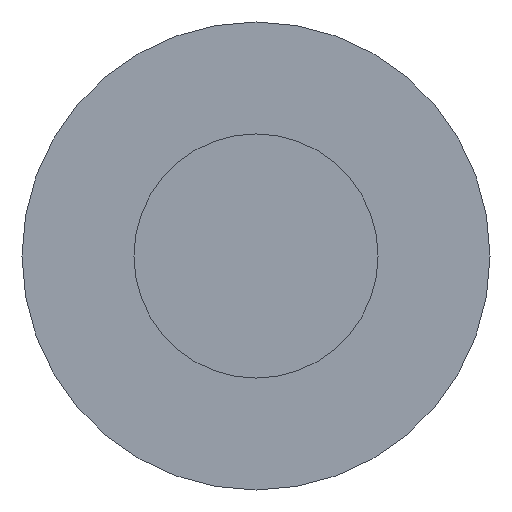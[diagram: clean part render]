
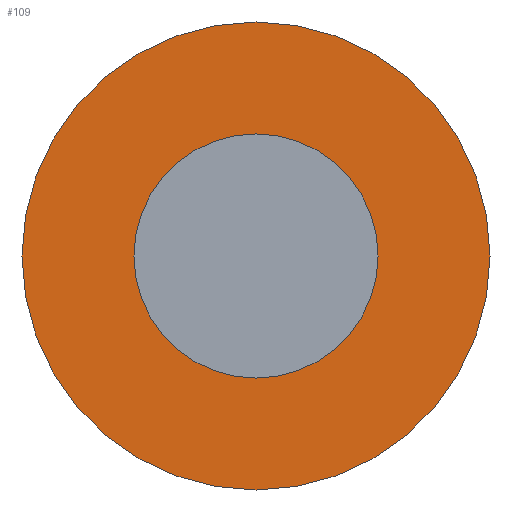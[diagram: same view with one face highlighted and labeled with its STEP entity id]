
A CAD part, left-side view. The second image highlights one B-rep face of the part: STEP entity #109.
In plain terms, the highlighted planar face has unit normal (-1, 0, 0).
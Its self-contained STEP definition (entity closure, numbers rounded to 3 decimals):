
#31 = CYLINDRICAL_SURFACE('',#32,2.3);
#32 = AXIS2_PLACEMENT_3D('',#33,#34,#35);
#33 = CARTESIAN_POINT('',(54.,-61.506,-82.661));
#34 = DIRECTION('',(1.,0.,0.));
#35 = DIRECTION('',(-0.,0.,1.));
#56 = VERTEX_POINT('',#57);
#57 = CARTESIAN_POINT('',(54.,-61.506,-80.361));
#78 = EDGE_CURVE('',#56,#56,#79,.T.);
#79 = SURFACE_CURVE('',#80,(#85,#92),.PCURVE_S1.);
#80 = CIRCLE('',#81,2.3);
#81 = AXIS2_PLACEMENT_3D('',#82,#83,#84);
#82 = CARTESIAN_POINT('',(54.,-61.506,-82.661));
#83 = DIRECTION('',(1.,0.,0.));
#84 = DIRECTION('',(-0.,0.,1.));
#85 = PCURVE('',#31,#86);
#86 = DEFINITIONAL_REPRESENTATION('',(#87),#91);
#87 = LINE('',#88,#89);
#88 = CARTESIAN_POINT('',(0.,0.));
#89 = VECTOR('',#90,1.);
#90 = DIRECTION('',(1.,0.));
#91 = ( GEOMETRIC_REPRESENTATION_CONTEXT(2) 
PARAMETRIC_REPRESENTATION_CONTEXT() REPRESENTATION_CONTEXT('2D SPACE',''
  ) );
#92 = PCURVE('',#93,#98);
#93 = PLANE('',#94);
#94 = AXIS2_PLACEMENT_3D('',#95,#96,#97);
#95 = CARTESIAN_POINT('',(54.,-61.506,-82.661));
#96 = DIRECTION('',(1.,0.,0.));
#97 = DIRECTION('',(-0.,0.,1.));
#98 = DEFINITIONAL_REPRESENTATION('',(#99),#103);
#99 = CIRCLE('',#100,2.3);
#100 = AXIS2_PLACEMENT_2D('',#101,#102);
#101 = CARTESIAN_POINT('',(0.,0.));
#102 = DIRECTION('',(1.,0.));
#103 = ( GEOMETRIC_REPRESENTATION_CONTEXT(2) 
PARAMETRIC_REPRESENTATION_CONTEXT() REPRESENTATION_CONTEXT('2D SPACE',''
  ) );
#109 = ADVANCED_FACE('',(#110,#113),#93,.F.);
#110 = FACE_BOUND('',#111,.F.);
#111 = EDGE_LOOP('',(#112));
#112 = ORIENTED_EDGE('',*,*,#78,.T.);
#113 = FACE_BOUND('',#114,.F.);
#114 = EDGE_LOOP('',(#115));
#115 = ORIENTED_EDGE('',*,*,#116,.F.);
#116 = EDGE_CURVE('',#117,#117,#119,.T.);
#117 = VERTEX_POINT('',#118);
#118 = CARTESIAN_POINT('',(54.,-61.506,-81.461));
#119 = SURFACE_CURVE('',#120,(#125,#132),.PCURVE_S1.);
#120 = CIRCLE('',#121,1.2);
#121 = AXIS2_PLACEMENT_3D('',#122,#123,#124);
#122 = CARTESIAN_POINT('',(54.,-61.506,-82.661));
#123 = DIRECTION('',(1.,0.,0.));
#124 = DIRECTION('',(-0.,0.,1.));
#125 = PCURVE('',#93,#126);
#126 = DEFINITIONAL_REPRESENTATION('',(#127),#131);
#127 = CIRCLE('',#128,1.2);
#128 = AXIS2_PLACEMENT_2D('',#129,#130);
#129 = CARTESIAN_POINT('',(0.,0.));
#130 = DIRECTION('',(1.,0.));
#131 = ( GEOMETRIC_REPRESENTATION_CONTEXT(2) 
PARAMETRIC_REPRESENTATION_CONTEXT() REPRESENTATION_CONTEXT('2D SPACE',''
  ) );
#132 = PCURVE('',#133,#138);
#133 = CYLINDRICAL_SURFACE('',#134,1.2);
#134 = AXIS2_PLACEMENT_3D('',#135,#136,#137);
#135 = CARTESIAN_POINT('',(48.5,-61.506,-82.661));
#136 = DIRECTION('',(1.,0.,0.));
#137 = DIRECTION('',(-0.,0.,1.));
#138 = DEFINITIONAL_REPRESENTATION('',(#139),#143);
#139 = LINE('',#140,#141);
#140 = CARTESIAN_POINT('',(0.,5.5));
#141 = VECTOR('',#142,1.);
#142 = DIRECTION('',(1.,0.));
#143 = ( GEOMETRIC_REPRESENTATION_CONTEXT(2) 
PARAMETRIC_REPRESENTATION_CONTEXT() REPRESENTATION_CONTEXT('2D SPACE',''
  ) );
